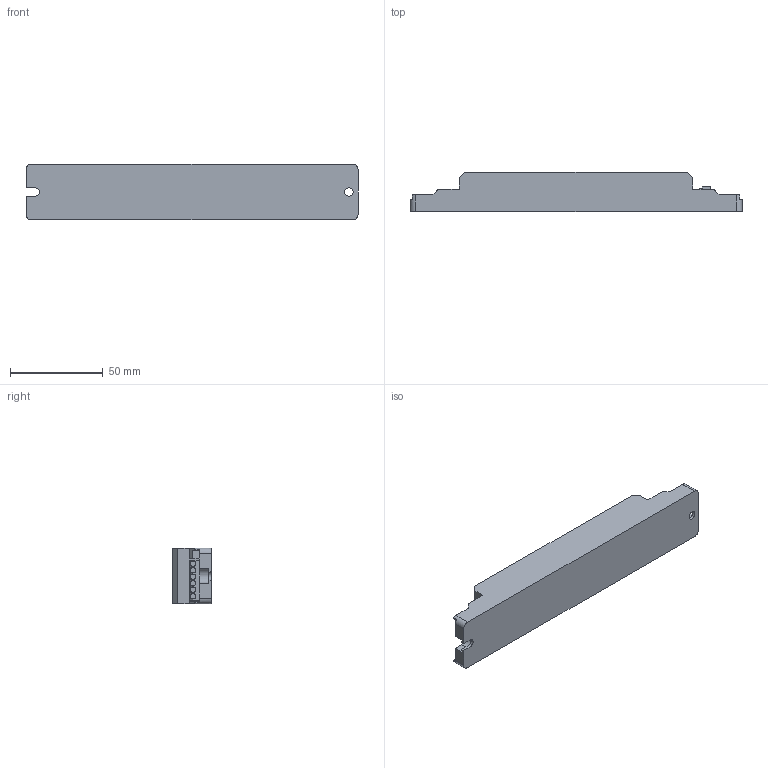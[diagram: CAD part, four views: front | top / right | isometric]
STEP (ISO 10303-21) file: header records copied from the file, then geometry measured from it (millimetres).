
FILE_DESCRIPTION((''),'2;1');
FILE_NAME('09813771Z','2018-09-27T17:02:07',('torbenh'),(''),'CREO PARAMETRIC BY PTC INC, 2017380','CREO PARAMETRIC BY PTC INC, 2017380','');
FILE_SCHEMA(('AUTOMOTIVE_DESIGN { 1 0 10303 214 1 1 1 1 }'));
Length unit declared in the file: millimetre
Products named in the file (1): 09813771Z
Bounding box: 179 x 21 x 30 mm (x, y, z)
Volume: 91774.7 mm3; surface area: 19866.1 mm2
Topology: 1 solids, 1 shells, 183 faces, 486 edges, 318 vertices
Faces by surface type: plane 134, cylinder 49
Entity records: 7563 total; most frequent: CARTESIAN_POINT 1081, ORIENTED_EDGE 972, DIRECTION 944, PRESENTATION_STYLE_ASSIGNMENT 487, STYLED_ITEM 487, CURVE_STYLE 486, EDGE_CURVE 486, VECTOR 354
